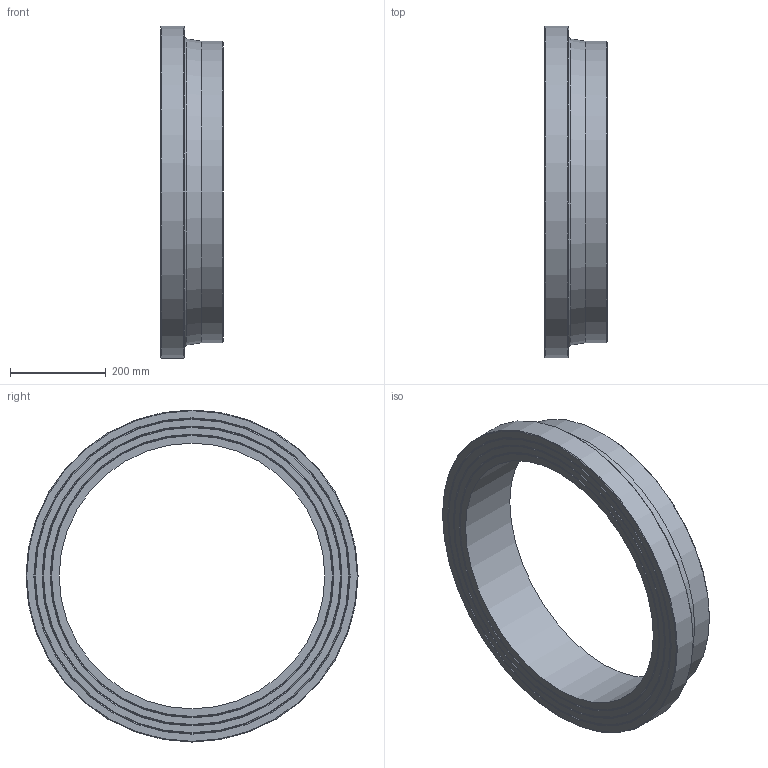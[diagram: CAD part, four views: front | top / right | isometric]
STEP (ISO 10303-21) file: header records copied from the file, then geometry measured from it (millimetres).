
FILE_DESCRIPTION(/* description */ ('Unknown'),/* implementation_level */ '2;1');
FILE_NAME(/* name */ 'CCP630B',/* time_stamp */ '2022-04-05T08:53:31+02:00',/* author */ ('Unknown'),/* organization */ ('Unknown'),/* preprocessor_version */ 'ST-DEVELOPER v18.1',/* originating_system */ 'Solid Edge',/* authorisation */ 'Unknown');
FILE_SCHEMA (('AUTOMOTIVE_DESIGN {1 0 10303 214 3 1 1}'));
Length unit declared in the file: millimetre
Products named in the file (1): CCP630B
Bounding box: 131 x 694 x 694 mm (x, y, z)
Volume: 12647578.3 mm3; surface area: 753922.4 mm2
Topology: 1 solids, 1 shells, 20 faces, 35 edges, 21 vertices
Faces by surface type: cone 10, plane 6, cylinder 3, torus 1
Full cylindrical faces by diameter (mm): 555.2 x1, 630 x1, 694 x1
Entity records: 438 total; most frequent: DIRECTION 82, CARTESIAN_POINT 61, AXIS2_PLACEMENT_3D 41, ORIENTED_EDGE 40, EDGE_LOOP 40, FACE_BOUND 40, EDGE_CURVE 20, VERTEX_POINT 20
